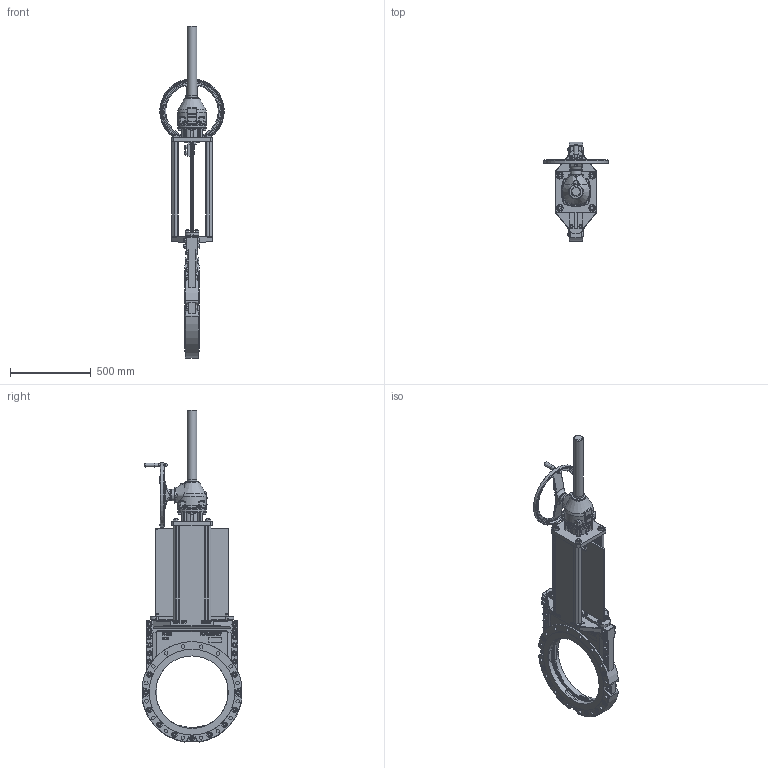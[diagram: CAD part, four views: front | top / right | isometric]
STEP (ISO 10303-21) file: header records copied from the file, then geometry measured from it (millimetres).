
FILE_DESCRIPTION(/* description */ (''),/* implementation_level */ '2;1');
FILE_NAME(/* name */ 'F:\3D Sammanställningar\WB\DN450\WB14E-WEE-DN450-ANSI150-AUMA-GK14.stp',/* time_stamp */ '2021-06-30T15:19:59+02:00',/* author */ ('MATZET'),/* organization */ (''),/* preprocessor_version */ 'ST-DEVELOPER v18',/* originating_system */ 'Autodesk Inventor 2020',/* authorisation */ '');
FILE_SCHEMA (('AUTOMOTIVE_DESIGN { 1 0 10303 214 3 1 1 }'));
Products named in the file (1): WB14E-WEE-DN450-ANSI150-AUMA-GK14_Shrinkwrap_1
Bounding box: 400 x 618.29 x 2060.67 mm (x, y, z)
Volume: 36730458.6 mm3; surface area: 4248472.9 mm2
Topology: 1 solids, 1 shells, 4155 faces, 10796 edges, 7039 vertices
Faces by surface type: plane 2163, cylinder 698, bspline 680, cone 423, torus 150, sphere 41
Full cylindrical faces by diameter (mm): 2 x2, 4 x2, 4.2 x1, 4.3 x2, 4.5 x4, 7 x1, 8.376 x2, 9 x1, 11 x4, 12 x20, 13 x8, 14 x4, 14.63 x2, 16 x23, 17.294 x4, 18 x5, 20 x12, 21 x4, 21.971 x32, 22 x4, 22.49 x27, 23 x1, 24 x8, 25 x1, 26 x4, 28.3 x2, 29 x2, 30 x54, 33 x31, 36 x16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
Entity records: 239870 total; most frequent: CARTESIAN_POINT 140318, ORIENTED_EDGE 21480, DIRECTION 18179, EDGE_CURVE 10740, VERTEX_POINT 7039, AXIS2_PLACEMENT_3D 6368, LINE 5443, VECTOR 5443
